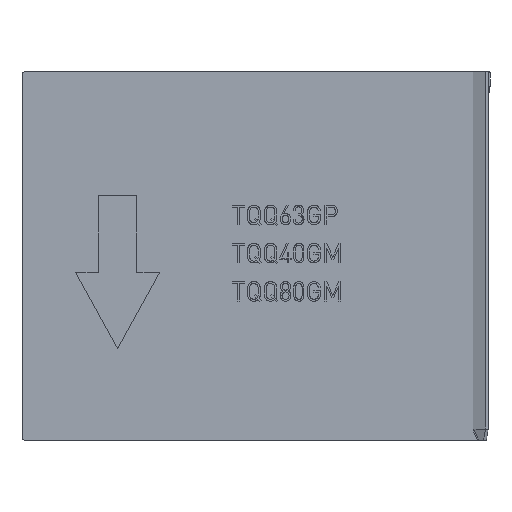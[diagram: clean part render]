
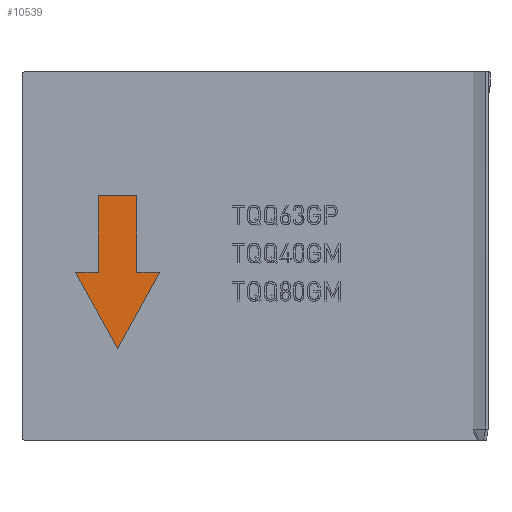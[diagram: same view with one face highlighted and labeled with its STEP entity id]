
A CAD part, top view. The second image highlights one B-rep face of the part: STEP entity #10539.
In plain terms, the highlighted planar face has unit normal (0, 0, 1).
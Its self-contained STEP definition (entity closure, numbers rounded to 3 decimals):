
#3074=DIRECTION('',(0.,-1.,0.));
#3075=VECTOR('',#3074,20.);
#3076=CARTESIAN_POINT('',(-96.,-5.5,1.3));
#3077=LINE('',#3076,#3075);
#3078=DIRECTION('',(-1.,0.,0.));
#3079=VECTOR('',#3078,10.);
#3080=CARTESIAN_POINT('',(-86.,-5.5,1.3));
#3081=LINE('',#3080,#3079);
#3082=DIRECTION('',(0.,1.,0.));
#3083=VECTOR('',#3082,20.);
#3084=CARTESIAN_POINT('',(-86.,-25.5,1.3));
#3085=LINE('',#3084,#3083);
#3086=DIRECTION('',(-1.,0.,0.));
#3087=VECTOR('',#3086,6.);
#3088=CARTESIAN_POINT('',(-80.,-25.5,1.3));
#3089=LINE('',#3088,#3087);
#3090=DIRECTION('',(0.482,0.876,0.));
#3091=VECTOR('',#3090,22.825);
#3092=CARTESIAN_POINT('',(-91.,-45.5,1.3));
#3093=LINE('',#3092,#3091);
#3094=DIRECTION('',(0.482,-0.876,0.));
#3095=VECTOR('',#3094,22.825);
#3096=CARTESIAN_POINT('',(-102.,-25.5,1.3));
#3097=LINE('',#3096,#3095);
#3098=DIRECTION('',(-1.,0.,0.));
#3099=VECTOR('',#3098,6.);
#3100=CARTESIAN_POINT('',(-96.,-25.5,1.3));
#3101=LINE('',#3100,#3099);
#7621=CARTESIAN_POINT('',(-96.,-5.5,1.3));
#7622=CARTESIAN_POINT('',(-96.,-25.5,1.3));
#7623=VERTEX_POINT('',#7621);
#7624=VERTEX_POINT('',#7622);
#7625=CARTESIAN_POINT('',(-102.,-25.5,1.3));
#7626=VERTEX_POINT('',#7625);
#7627=CARTESIAN_POINT('',(-91.,-45.5,1.3));
#7628=VERTEX_POINT('',#7627);
#7629=CARTESIAN_POINT('',(-80.,-25.5,1.3));
#7630=VERTEX_POINT('',#7629);
#7631=CARTESIAN_POINT('',(-86.,-25.5,1.3));
#7632=VERTEX_POINT('',#7631);
#7633=CARTESIAN_POINT('',(-86.,-5.5,1.3));
#7634=VERTEX_POINT('',#7633);
#10525=CARTESIAN_POINT('',(0.,0.,1.3));
#10526=DIRECTION('',(0.,0.,1.));
#10527=DIRECTION('',(1.,0.,0.));
#10528=AXIS2_PLACEMENT_3D('',#10525,#10526,#10527);
#10529=PLANE('',#10528);
#10530=ORIENTED_EDGE('',*,*,#10435,.F.);
#10531=ORIENTED_EDGE('',*,*,#10450,.F.);
#10532=ORIENTED_EDGE('',*,*,#10464,.F.);
#10533=ORIENTED_EDGE('',*,*,#10478,.F.);
#10534=ORIENTED_EDGE('',*,*,#10492,.F.);
#10535=ORIENTED_EDGE('',*,*,#10506,.F.);
#10536=ORIENTED_EDGE('',*,*,#10519,.F.);
#10537=EDGE_LOOP('',(#10530,#10531,#10532,#10533,#10534,#10535,#10536));
#10538=FACE_OUTER_BOUND('',#10537,.F.);
#10539=ADVANCED_FACE('',(#10538),#10529,.T.);
#10435=EDGE_CURVE('',#7623,#7624,#3077,.T.);
#10450=EDGE_CURVE('',#7634,#7623,#3081,.T.);
#10464=EDGE_CURVE('',#7632,#7634,#3085,.T.);
#10478=EDGE_CURVE('',#7630,#7632,#3089,.T.);
#10492=EDGE_CURVE('',#7628,#7630,#3093,.T.);
#10506=EDGE_CURVE('',#7626,#7628,#3097,.T.);
#10519=EDGE_CURVE('',#7624,#7626,#3101,.T.);
